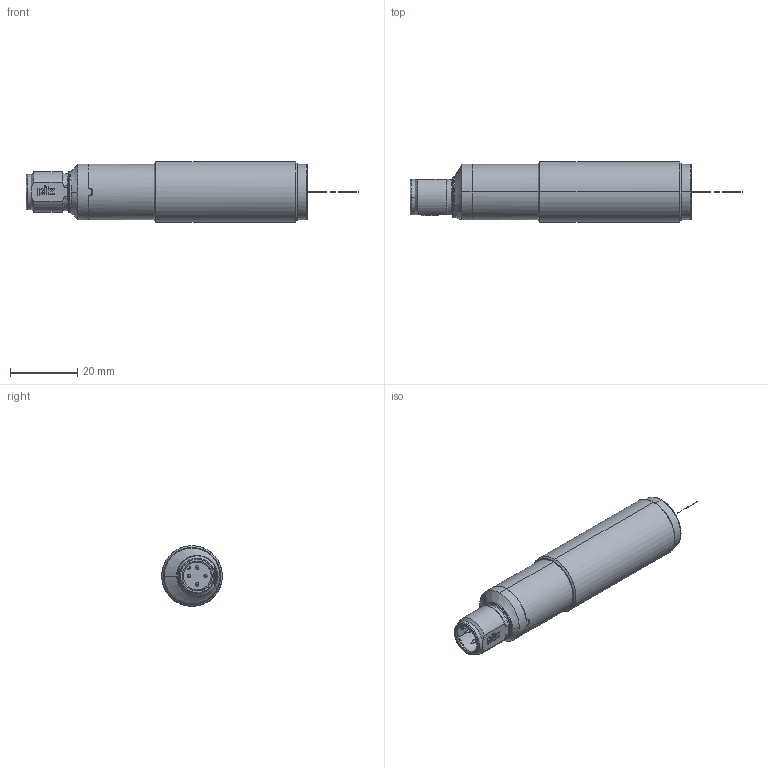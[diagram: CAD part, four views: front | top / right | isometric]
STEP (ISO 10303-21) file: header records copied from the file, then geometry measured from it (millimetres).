
FILE_DESCRIPTION((''),'2;1');
FILE_NAME('2008672','2011-03-28T',('rink'),(''),'PRO/ENGINEER BY PARAMETRIC TECHNOLOGY CORPORATION, 2009380','PRO/ENGINEER BY PARAMETRIC TECHNOLOGY CORPORATION, 2009380','');
FILE_SCHEMA(('AUTOMOTIVE_DESIGN_CC2 { 1 2 10303 214 -1 1 5 2 }'));
Length unit declared in the file: millimetre
Products named in the file (1): 2008672
Bounding box: 98.5 x 18 x 18 mm (x, y, z)
Surface area: 4862.4 mm2
Topology: 5 solids, 31 shells, 158 faces, 443 edges, 307 vertices
Faces by surface type: plane 66, cylinder 52, cone 18, torus 12, bspline 10
Entity records: 7277 total; most frequent: CARTESIAN_POINT 1687, DIRECTION 827, ORIENTED_EDGE 732, PRESENTATION_STYLE_ASSIGNMENT 476, STYLED_ITEM 471, CURVE_STYLE 440, EDGE_CURVE 435, AXIS2_PLACEMENT_3D 320
